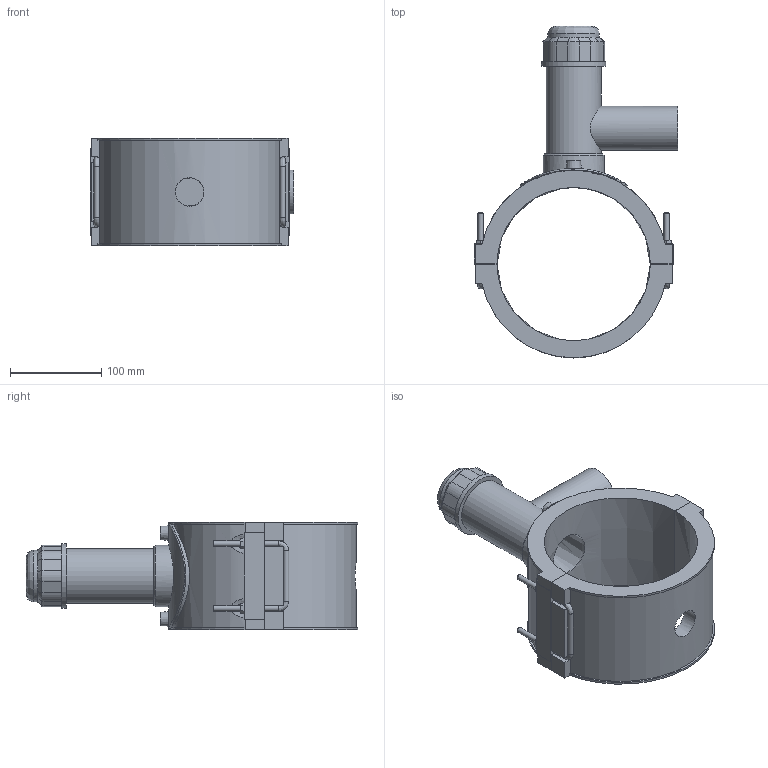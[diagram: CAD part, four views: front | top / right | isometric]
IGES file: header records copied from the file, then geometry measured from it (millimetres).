
Global section: file name: 5963BB03060015.ipt; native system: Autodesk Inventor 2019; preprocessor: unknown; author: KIM; date: 20210830.101426; units: millimetre
Bounding box: 223 x 363.85 x 118.11 mm (x, y, z)
Volume: 1547038.7 mm3; surface area: 264239.3 mm2
Topology: 1 solids, 1 shells, 195 faces, 507 edges, 330 vertices
Faces by surface type: plane 120, cylinder 35, revolution 20, cone 15, bspline 5
Full cylindrical faces by diameter (mm): 4 x2, 6 x10, 48.1 x1, 56.448 x1, 59.976 x1, 67.032 x1, 70.56 x1, 117.6 x1
